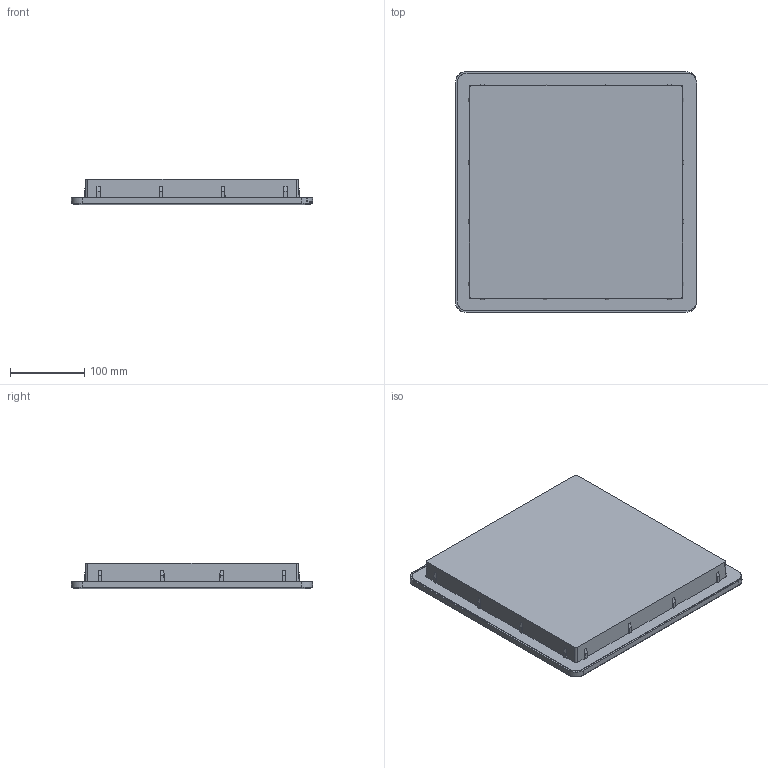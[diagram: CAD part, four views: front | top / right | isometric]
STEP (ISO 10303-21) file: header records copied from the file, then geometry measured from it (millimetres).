
FILE_DESCRIPTION (( 'STEP AP214' ), '1' );
FILE_NAME ('FF20y.STEP', '2023-10-05T07:03:22', ( '' ), ( '' ), 'SwSTEP 2.0', 'SolidWorks 2022', '' );
FILE_SCHEMA (( 'AUTOMOTIVE_DESIGN' ));
Length unit declared in the file: millimetre
Products named in the file (4): FF20y; DT-00228DSI_Semplificata; DT-00230DSI_Semplificato; DT-04082DSI_mostrina semplificata
Assembly tree (3 placements, depth 2):
  FF20y
    DT-00228DSI_Semplificata
    DT-00230DSI_Semplificato
    DT-04082DSI_mostrina semplificata
Bounding box: 325.06 x 325 x 34.06 mm (x, y, z)
Volume: 2961302.9 mm3; surface area: 523015 mm2
Topology: 3 solids, 3 shells, 709 faces, 2213 edges, 1513 vertices
Faces by surface type: plane 667, cylinder 26, bspline 12, cone 4
Entity records: 25936 total; most frequent: CARTESIAN_POINT 6129, ORIENTED_EDGE 4426, DIRECTION 3599, EDGE_CURVE 2213, VECTOR 2121, LINE 2121, VERTEX_POINT 1513, AXIS2_PLACEMENT_3D 739
